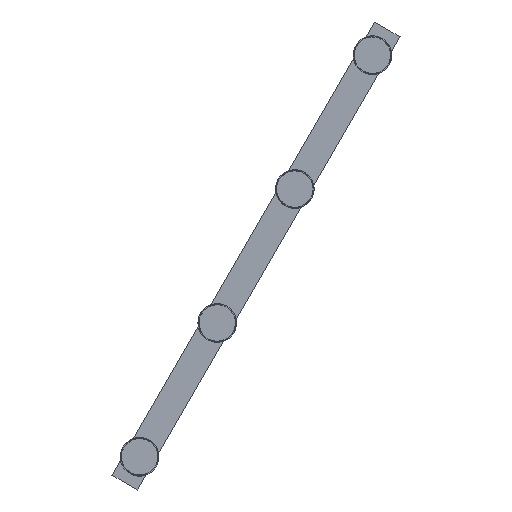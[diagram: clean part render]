
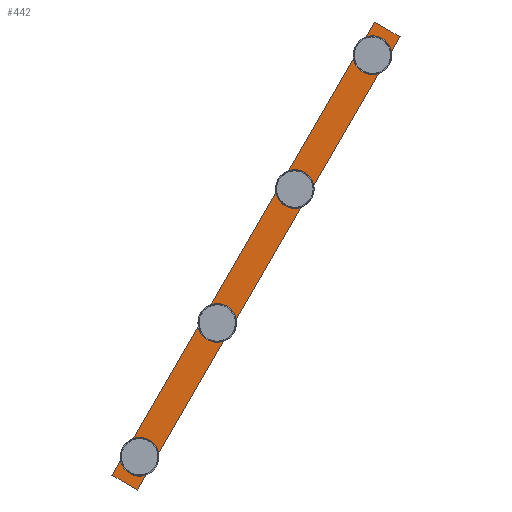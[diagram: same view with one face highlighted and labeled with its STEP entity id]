
A CAD part, front view. The second image highlights one B-rep face of the part: STEP entity #442.
In plain terms, the highlighted planar face has unit normal (0, -1, 0).
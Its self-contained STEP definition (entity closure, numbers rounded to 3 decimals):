
#72=LINE('',#776,#84);
#73=LINE('',#779,#85);
#74=LINE('',#781,#86);
#75=LINE('',#782,#87);
#84=VECTOR('',#623,10.);
#85=VECTOR('',#626,10.);
#86=VECTOR('',#627,10.);
#87=VECTOR('',#628,10.);
#98=PLANE('',#527);
#118=FACE_BOUND('',#182,.T.);
#119=FACE_BOUND('',#183,.T.);
#120=FACE_BOUND('',#184,.T.);
#121=FACE_BOUND('',#185,.T.);
#144=FACE_OUTER_BOUND('',#181,.T.);
#181=EDGE_LOOP('',(#330,#331,#332,#333));
#182=EDGE_LOOP('',(#334));
#183=EDGE_LOOP('',(#335));
#184=EDGE_LOOP('',(#336));
#185=EDGE_LOOP('',(#337));
#223=CIRCLE('',#512,10.);
#225=CIRCLE('',#516,10.);
#227=CIRCLE('',#520,10.);
#229=CIRCLE('',#524,10.);
#247=VERTEX_POINT('',#747);
#249=VERTEX_POINT('',#753);
#251=VERTEX_POINT('',#759);
#253=VERTEX_POINT('',#765);
#255=VERTEX_POINT('',#770);
#257=VERTEX_POINT('',#774);
#258=VERTEX_POINT('',#778);
#259=VERTEX_POINT('',#780);
#279=EDGE_CURVE('',#247,#247,#223,.T.);
#281=EDGE_CURVE('',#249,#249,#225,.T.);
#283=EDGE_CURVE('',#251,#251,#227,.T.);
#285=EDGE_CURVE('',#253,#253,#229,.T.);
#289=EDGE_CURVE('',#255,#257,#72,.T.);
#290=EDGE_CURVE('',#255,#258,#73,.T.);
#291=EDGE_CURVE('',#259,#257,#74,.T.);
#292=EDGE_CURVE('',#258,#259,#75,.T.);
#330=ORIENTED_EDGE('',*,*,#290,.F.);
#331=ORIENTED_EDGE('',*,*,#289,.T.);
#332=ORIENTED_EDGE('',*,*,#291,.F.);
#333=ORIENTED_EDGE('',*,*,#292,.F.);
#334=ORIENTED_EDGE('',*,*,#279,.T.);
#335=ORIENTED_EDGE('',*,*,#281,.T.);
#336=ORIENTED_EDGE('',*,*,#283,.T.);
#337=ORIENTED_EDGE('',*,*,#285,.T.);
#442=ADVANCED_FACE('',(#144,#118,#119,#120,#121),#98,.T.);
#512=AXIS2_PLACEMENT_3D('',#748,#590,#591);
#516=AXIS2_PLACEMENT_3D('',#754,#598,#599);
#520=AXIS2_PLACEMENT_3D('',#760,#606,#607);
#524=AXIS2_PLACEMENT_3D('',#766,#614,#615);
#527=AXIS2_PLACEMENT_3D('',#777,#624,#625);
#590=DIRECTION('center_axis',(0.,1.,0.));
#591=DIRECTION('ref_axis',(-1.,0.,0.));
#598=DIRECTION('center_axis',(0.,1.,0.));
#599=DIRECTION('ref_axis',(-1.,0.,0.));
#606=DIRECTION('center_axis',(0.,1.,0.));
#607=DIRECTION('ref_axis',(-1.,0.,0.));
#614=DIRECTION('center_axis',(0.,1.,0.));
#615=DIRECTION('ref_axis',(-1.,0.,0.));
#623=DIRECTION('',(0.,0.,1.));
#624=DIRECTION('center_axis',(0.,-1.,0.));
#625=DIRECTION('ref_axis',(1.,0.,0.));
#626=DIRECTION('',(-1.,0.,0.));
#627=DIRECTION('',(1.,0.,0.));
#628=DIRECTION('',(0.,0.,1.));
#747=CARTESIAN_POINT('',(-94.167,-15.,20.));
#748=CARTESIAN_POINT('Origin',(-104.167,-15.,20.));
#753=CARTESIAN_POINT('',(-302.5,-15.,20.));
#754=CARTESIAN_POINT('Origin',(-312.5,-15.,20.));
#759=CARTESIAN_POINT('',(322.5,-15.,20.));
#760=CARTESIAN_POINT('Origin',(312.5,-15.,20.));
#765=CARTESIAN_POINT('',(114.167,-15.,20.));
#766=CARTESIAN_POINT('Origin',(104.167,-15.,20.));
#770=CARTESIAN_POINT('',(352.5,-15.,0.));
#774=CARTESIAN_POINT('',(352.5,-15.,40.));
#776=CARTESIAN_POINT('',(352.5,-15.,0.));
#777=CARTESIAN_POINT('Origin',(-352.5,-15.,0.));
#778=CARTESIAN_POINT('',(-352.5,-15.,0.));
#779=CARTESIAN_POINT('',(352.5,-15.,0.));
#780=CARTESIAN_POINT('',(-352.5,-15.,40.));
#781=CARTESIAN_POINT('',(352.5,-15.,40.));
#782=CARTESIAN_POINT('',(-352.5,-15.,0.));
